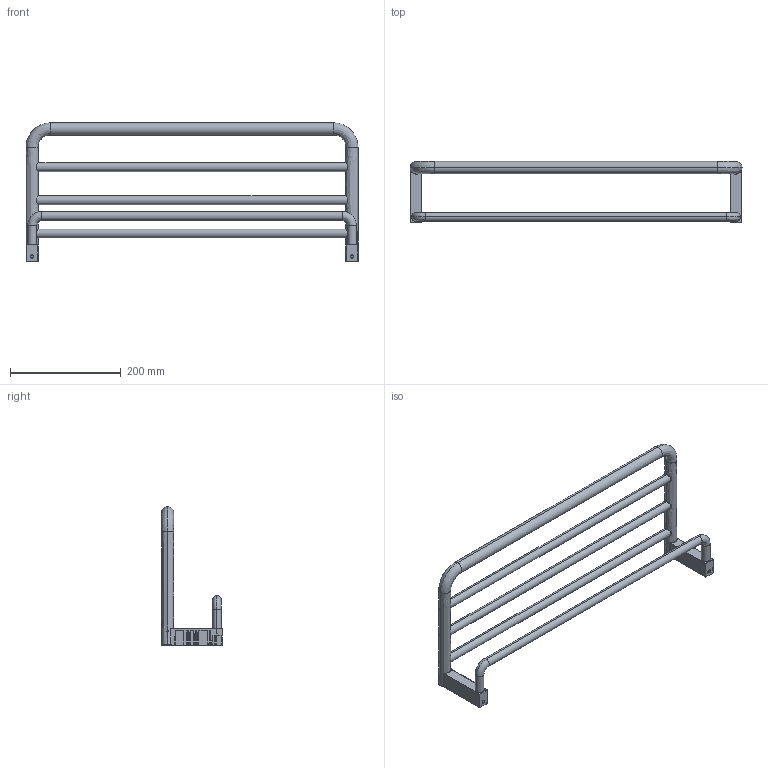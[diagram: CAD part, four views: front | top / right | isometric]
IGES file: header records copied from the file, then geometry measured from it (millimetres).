
Start section: SolidWorks IGES file using analytic representation for surfaces
Global section: file name: G:\Projects\New project\For Marketing\IGS\IGS\2015-10-22\2510168VW.IGS; native system: SolidWorks 2010; preprocessor: SolidWorks 2010; author: linda; date: 151013.133723; units: millimetre
Bounding box: 600 x 110 x 250 mm (x, y, z)
Surface area: 250894.2 mm2 (no closed solid volume)
Topology: 0 solids, 0 shells, 392 faces, 4341 edges, 4337 vertices
Faces by surface type: revolution 218, bspline 174
